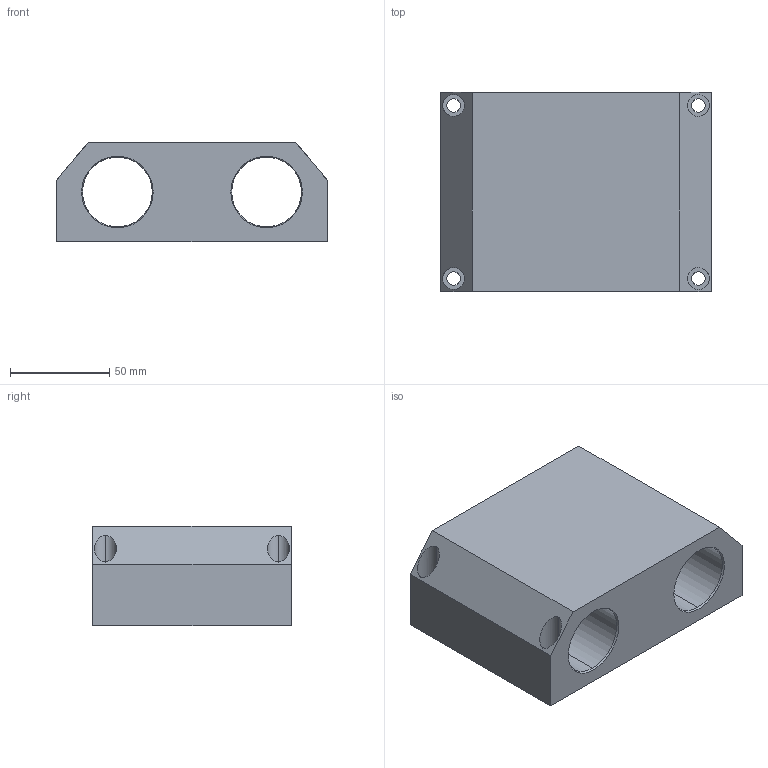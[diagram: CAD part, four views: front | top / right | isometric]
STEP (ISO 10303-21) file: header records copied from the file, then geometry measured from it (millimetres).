
FILE_DESCRIPTION (( 'STEP AP214' ), '1' );
FILE_NAME ('KQSGC-25.step', '2020-03-04T13:10:39', ( '' ), ( '' ), 'SwSTEP 2.0', 'SolidWorks 2019', '' );
FILE_SCHEMA (( 'AUTOMOTIVE_DESIGN' ));
Length unit declared in the file: millimetre
Products named in the file (1): KQSGC-25
Bounding box: 136 x 100 x 50 mm (x, y, z)
Volume: 448032.4 mm3; surface area: 69771.1 mm2
Topology: 1 solids, 1 shells, 58 faces, 132 edges, 83 vertices
Faces by surface type: cylinder 30, plane 16, cone 12
Entity records: 1862 total; most frequent: DIRECTION 302, CARTESIAN_POINT 296, ORIENTED_EDGE 260, EDGE_CURVE 130, AXIS2_PLACEMENT_3D 121, VERTEX_POINT 83, EDGE_LOOP 79, CIRCLE 62
